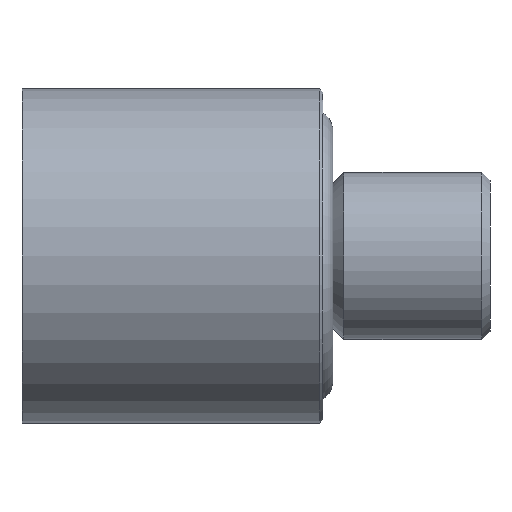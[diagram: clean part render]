
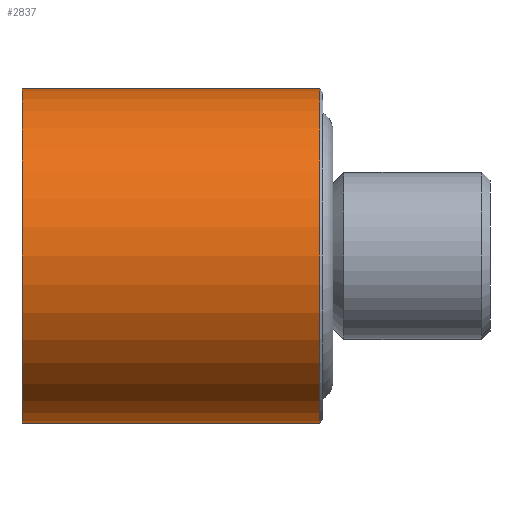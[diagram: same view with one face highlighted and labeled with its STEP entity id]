
A CAD part, left-side view. The second image highlights one B-rep face of the part: STEP entity #2837.
In plain terms, the highlighted cylindrical face has radius 10 mm (diameter 20 mm), a partial arc.
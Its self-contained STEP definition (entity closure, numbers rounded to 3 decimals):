
#306 = CARTESIAN_POINT ( 'NONE',  ( 0., 18., -10. ) ) ;
#316 = CARTESIAN_POINT ( 'NONE',  ( 0., 18., 10. ) ) ;
#324 = CARTESIAN_POINT ( 'NONE',  ( 0., 0.2, -10. ) ) ;
#325 = CARTESIAN_POINT ( 'NONE',  ( 0., 0.2, 10. ) ) ;
#800 = EDGE_LOOP ( 'NONE', ( #3180, #3234, #1162, #3190 ) ) ;
#1162 = ORIENTED_EDGE ( 'NONE', *, *, #2709, .T. ) ;
#1491 = CARTESIAN_POINT ( 'NONE',  ( 0., 0., 0. ) ) ;
#1508 = FACE_OUTER_BOUND ( 'NONE', #800, .T. ) ;
#1512 = DIRECTION ( 'NONE',  ( 0., 1., 0. ) ) ;
#1513 = CYLINDRICAL_SURFACE ( 'NONE', #1977, 10. ) ;
#1532 = DIRECTION ( 'NONE',  ( 0., 0., 1. ) ) ;
#1813 = CARTESIAN_POINT ( 'NONE',  ( 0., 0.2, 0. ) ) ;
#1829 = DIRECTION ( 'NONE',  ( 0., -1., 0. ) ) ;
#1832 = DIRECTION ( 'NONE',  ( 0., 0., 1. ) ) ;
#1915 = CARTESIAN_POINT ( 'NONE',  ( 0., 0., 10. ) ) ;
#1916 = DIRECTION ( 'NONE',  ( 0., 1., 0. ) ) ;
#1920 = DIRECTION ( 'NONE',  ( 0., 1., 0. ) ) ;
#1941 = LINE ( 'NONE', #1915, #2242 ) ;
#1943 = CARTESIAN_POINT ( 'NONE',  ( 0., 18., 0. ) ) ;
#1946 = DIRECTION ( 'NONE',  ( 0., 0., -1. ) ) ;
#1977 = AXIS2_PLACEMENT_3D ( 'NONE', #1491, #1512, #1532 ) ;
#2023 = AXIS2_PLACEMENT_3D ( 'NONE', #1813, #1829, #1832 ) ;
#2031 = CIRCLE ( 'NONE', #2023, 10. ) ;
#2082 = VECTOR ( 'NONE', #2374, 1000. ) ;
#2223 = CIRCLE ( 'NONE', #2235, 10. ) ;
#2235 = AXIS2_PLACEMENT_3D ( 'NONE', #1943, #1920, #1946 ) ;
#2242 = VECTOR ( 'NONE', #1916, 1000. ) ;
#2331 = CARTESIAN_POINT ( 'NONE',  ( 0., 0., -10. ) ) ;
#2355 = LINE ( 'NONE', #2331, #2082 ) ;
#2374 = DIRECTION ( 'NONE',  ( 0., 1., 0. ) ) ;
#2709 = EDGE_CURVE ( 'NONE', #3320, #3337, #1941, .T. ) ;
#2710 = EDGE_CURVE ( 'NONE', #3296, #3337, #2223, .T. ) ;
#2751 = EDGE_CURVE ( 'NONE', #3320, #3294, #2031, .T. ) ;
#2766 = EDGE_CURVE ( 'NONE', #3294, #3296, #2355, .T. ) ;
#2837 = ADVANCED_FACE ( 'NONE', ( #1508 ), #1513, .T. ) ;
#3180 = ORIENTED_EDGE ( 'NONE', *, *, #2766, .F. ) ;
#3190 = ORIENTED_EDGE ( 'NONE', *, *, #2710, .F. ) ;
#3234 = ORIENTED_EDGE ( 'NONE', *, *, #2751, .F. ) ;
#3294 = VERTEX_POINT ( 'NONE', #324 ) ;
#3296 = VERTEX_POINT ( 'NONE', #306 ) ;
#3320 = VERTEX_POINT ( 'NONE', #325 ) ;
#3337 = VERTEX_POINT ( 'NONE', #316 ) ;
